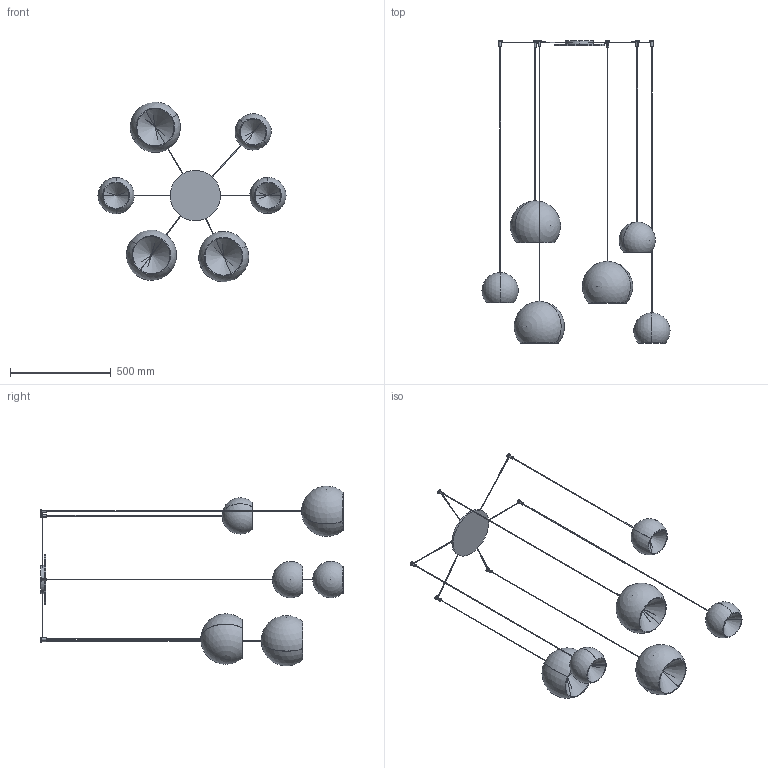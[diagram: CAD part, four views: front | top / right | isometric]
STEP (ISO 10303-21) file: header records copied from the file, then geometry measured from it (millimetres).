
FILE_DESCRIPTION (( 'STEP AP203' ), '1' );
FILE_NAME ('CRM06-00-CHERRY MIX_6 sospensione.STEP', '2025-05-06T07:34:23', ( '' ), ( '' ), 'SwSTEP 2.0', 'SolidWorks 2022', '' );
FILE_SCHEMA (( 'CONFIG_CONTROL_DESIGN' ));
Length unit declared in the file: millimetre
Products named in the file (8): CHERRY_Lampada singola_Cherry 180 | H=1950; CHERRY_Lampada singola_Cherry 180 | H=1500; CHERRY_Lampada singola_Cherry 180 | H=1700; CHERRY_Lampada singola_Cherry 250 | H=1500; CHERRY_Lampada singola_Cherry 250 | H=1700; CHERRY_Lampada singola_Cherry 250 | H=2000; CHERRY_Rosone_Cherry 6 (x d.1800)<A macchina>; CRM06-00-CHERRY MIX_6 sospensione
Assembly tree (7 placements, depth 2):
  CRM06-00-CHERRY MIX_6 sospensione
    CHERRY_Rosone_Cherry 6 (x d.1800)<A macchina>
    CHERRY_Lampada singola_Cherry 250 | H=1500
    CHERRY_Lampada singola_Cherry 180 | H=1700
    CHERRY_Lampada singola_Cherry 250 | H=2000
    CHERRY_Lampada singola_Cherry 250 | H=1700
    CHERRY_Lampada singola_Cherry 180 | H=1500
    CHERRY_Lampada singola_Cherry 180 | H=1950
Bounding box: 933 x 1500 x 891.59 mm (x, y, z)
Volume: 2466096.7 mm3; surface area: 2067435.7 mm2
Topology: 31 solids, 31 shells, 235 faces, 554 edges, 346 vertices
Faces by surface type: cylinder 112, plane 75, sphere 24, cone 24
Entity records: 7342 total; most frequent: CARTESIAN_POINT 1553, DIRECTION 1140, ORIENTED_EDGE 940, AXIS2_PLACEMENT_3D 505, EDGE_CURVE 470, VERTEX_POINT 310, EDGE_LOOP 260, CIRCLE 260
